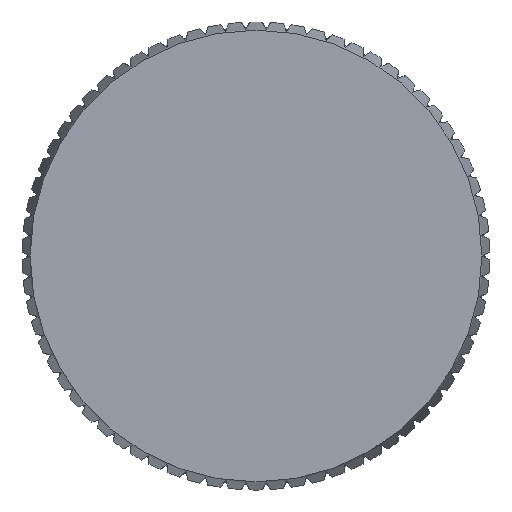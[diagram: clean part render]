
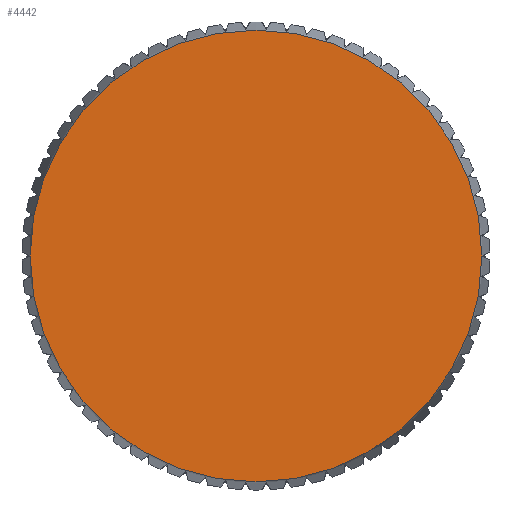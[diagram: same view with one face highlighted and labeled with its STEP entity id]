
A CAD part, front view. The second image highlights one B-rep face of the part: STEP entity #4442.
In plain terms, the highlighted planar face has unit normal (0, -1, 0).
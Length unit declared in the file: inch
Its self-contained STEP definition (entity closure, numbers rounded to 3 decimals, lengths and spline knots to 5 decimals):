
#394=CIRCLE('',#4477,0.17083);
#395=CIRCLE('',#4478,0.17083);
#801=FACE_OUTER_BOUND('',#1044,.T.);
#1044=EDGE_LOOP('',(#4044,#4045));
#1535=VERTEX_POINT('',#6103);
#1536=VERTEX_POINT('',#6104);
#2008=EDGE_CURVE('',#1535,#1536,#394,.T.);
#2009=EDGE_CURVE('',#1536,#1535,#395,.T.);
#4044=ORIENTED_EDGE('',*,*,#2008,.T.);
#4045=ORIENTED_EDGE('',*,*,#2009,.T.);
#4207=PLANE('',#4871);
#4442=ADVANCED_FACE('',(#801),#4207,.T.);
#4477=AXIS2_PLACEMENT_3D('',#6105,#4930,#4931);
#4478=AXIS2_PLACEMENT_3D('',#6106,#4932,#4933);
#4871=AXIS2_PLACEMENT_3D('',#8970,#5928,#5929);
#4930=DIRECTION('center_axis',(0.,-1.,0.));
#4931=DIRECTION('ref_axis',(1.,0.,0.));
#4932=DIRECTION('center_axis',(0.,-1.,0.));
#4933=DIRECTION('ref_axis',(1.,0.,0.));
#5928=DIRECTION('center_axis',(0.,-1.,0.));
#5929=DIRECTION('ref_axis',(0.,0.,-1.));
#6103=CARTESIAN_POINT('',(0.,0.,-0.17083));
#6104=CARTESIAN_POINT('',(0.,0.,0.17083));
#6105=CARTESIAN_POINT('Origin',(0.,0.,0.));
#6106=CARTESIAN_POINT('Origin',(0.,0.,0.));
#8970=CARTESIAN_POINT('Origin',(0.,0.,0.));
